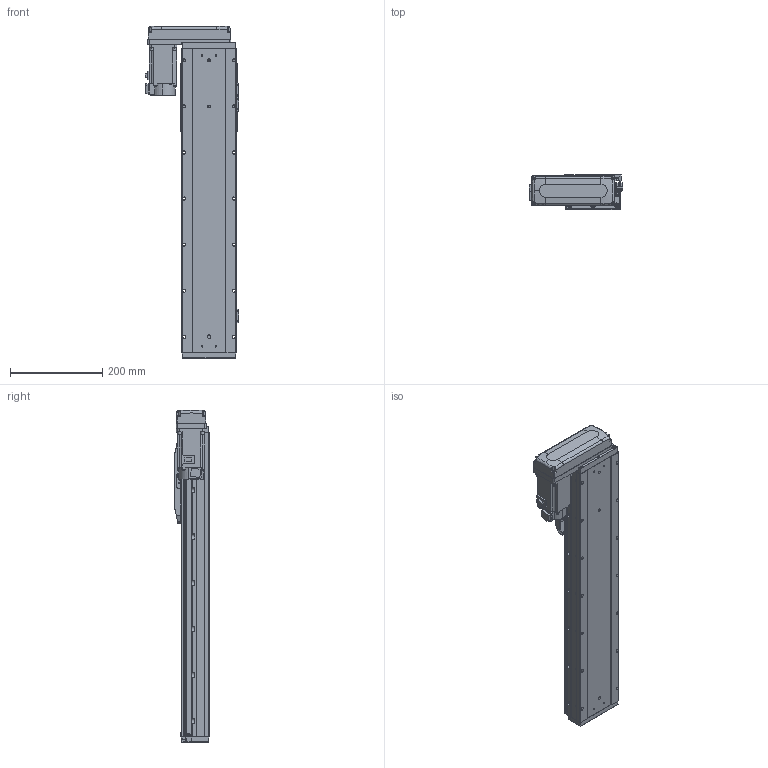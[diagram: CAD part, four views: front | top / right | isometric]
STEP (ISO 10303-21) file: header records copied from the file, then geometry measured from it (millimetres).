
FILE_DESCRIPTION (( 'STEP AP203' ), '1' );
FILE_NAME ('GTH12-450-BR-M40-C4.step', '2025-07-16T03:44:28', ( '' ), ( '' ), 'SwSTEP 2.0', 'SolidWorks 2023', '' );
FILE_SCHEMA (( 'CONFIG_CONTROL_DESIGN' ));
Length unit declared in the file: millimetre
Products named in the file (18): BTH-M3X5X6; CTHA86-033_M40B; GTH80-022; GTH12-450-BR-M40-C4; GBT96.1-2002 3×0.8; GTH50-024; GTH120-027-1_GTH120-027-2; GTH120-006; GBT 70.3-M3×8; GTH80-028; GBT 70.1-M3×6; GTH50-023; hg-kn43j_-s100_; GTH120-013; GTH120-003; GBT 70.1-M5×16; GTH120-001_450; GTH120-004
Assembly tree (59 placements, depth 2):
  GTH12-450-BR-M40-C4
    GTH120-001_450
    GTH120-003
    GTH120-006
    GTH120-004
    GTH120-013
    GBT 70.1-M3×6  x14
    GBT 70.1-M5×16  x10
    GBT 70.3-M3×8  x4
    GTH80-022
    GTH80-028  x2
    GTH50-023  x3
    GTH50-024  x3
    GBT96.1-2002 3×0.8  x6
    BTH-M3X5X6  x8
    hg-kn43j_-s100_
    CTHA86-033_M40B
    GTH120-027-1_GTH120-027-2
Bounding box: 203.5 x 76 x 720.5 mm (x, y, z)
Volume: 5551168.9 mm3; surface area: 551291 mm2
Topology: 61 solids, 61 shells, 2407 faces, 5600 edges, 3435 vertices
Faces by surface type: plane 1248, cylinder 687, cone 284, torus 174, sphere 8, bspline 6
Entity records: 44446 total; most frequent: CARTESIAN_POINT 7528, DIRECTION 7336, ORIENTED_EDGE 6810, EDGE_CURVE 3405, AXIS2_PLACEMENT_3D 2564, LINE 2208, VECTOR 2208, VERTEX_POINT 2156
